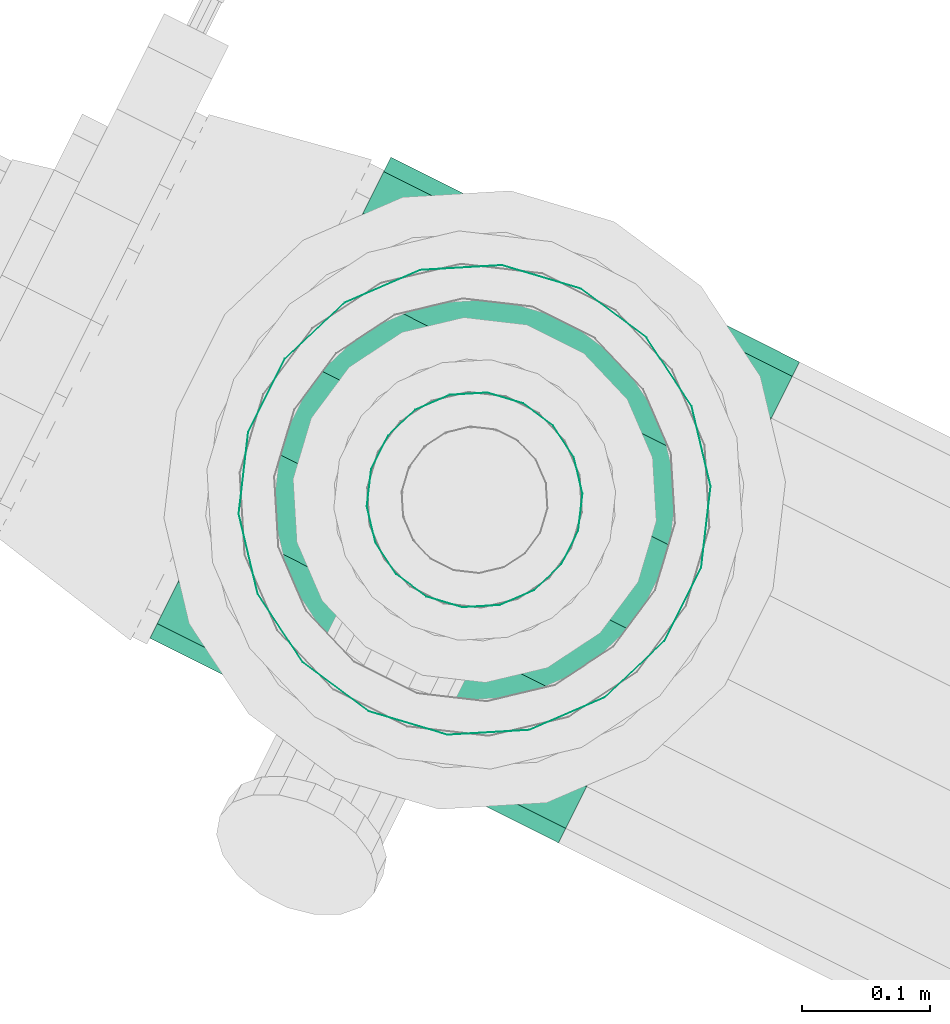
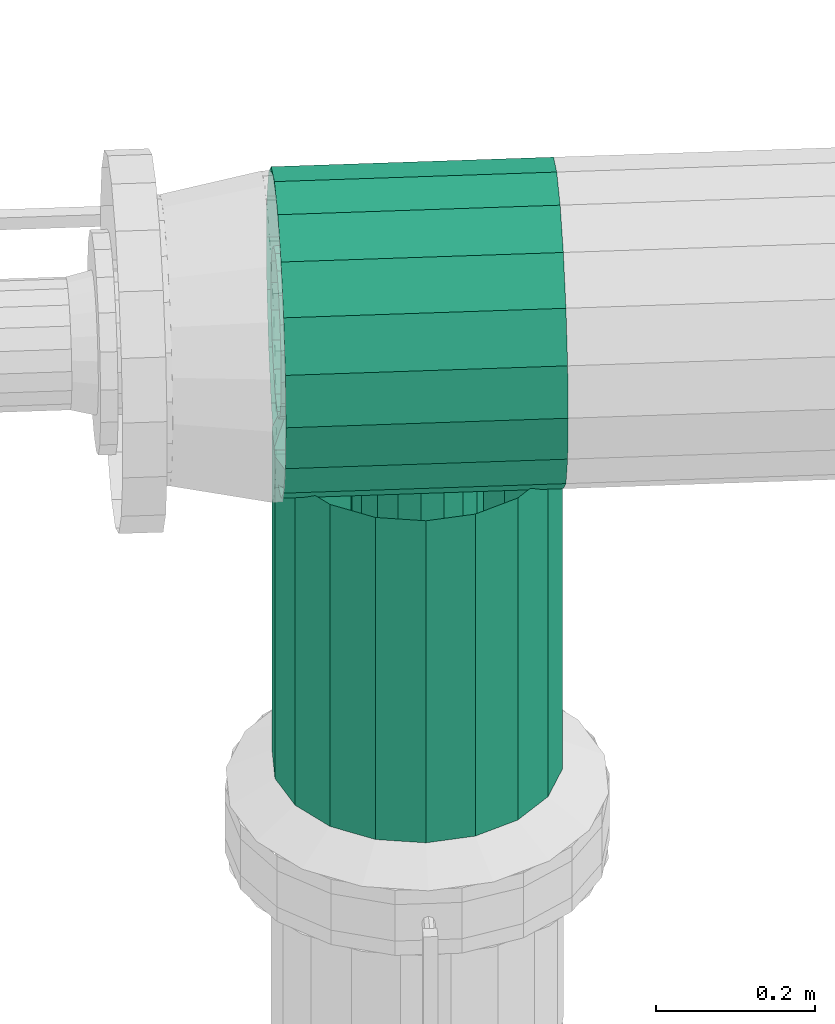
# One storey, part 74 of 152: 1 flow fitting, 1 flow segment.
"""IFC2X3 building model written with IfcOpenShell, lengths in metres."""

from ifc_helpers import new_model, si_unit, derived_unit, direction, frame, origin, place, context, subcontext, project, spatial, face_set, surface_model, source, transform, mapped, material, type_object, type_shapes, element, save


model = new_model("IFC2X3")

# Units and contexts
model_context = context("Model", 3, precision=5.2338327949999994e-05, world=origin(), true_north=direction((0.0, 1.0)))
body_context = subcontext(model_context, "Body", "Model", "MODEL_VIEW")
ifc_project = project(units=[si_unit("LENGTHUNIT", "METRE"), si_unit("AREAUNIT", "SQUARE_METRE"), si_unit("VOLUMEUNIT", "CUBIC_METRE"), si_unit("MASSUNIT", "GRAM", prefix="KILO"), si_unit("PLANEANGLEUNIT", "RADIAN"), derived_unit("THERMALTRANSMITTANCEUNIT", [(si_unit("MASSUNIT", "GRAM", prefix="KILO"), 1), (si_unit("THERMODYNAMICTEMPERATUREUNIT", "KELVIN"), -1), (si_unit("TIMEUNIT", "SECOND"), -3)])], contexts=[model_context])

# Site, building, storey
site_placement = place(None, frame((0.0, 0.0, 0.0), z_axis=(0.0, 0.0, 1.0), x_axis=(0.8939966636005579, -0.4480736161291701, 0.0)))
site = spatial("IfcSite", under=ifc_project, at=site_placement, Name="Default", CompositionType="ELEMENT")
building_placement = place(site_placement, origin())
building = spatial("IfcBuilding", under=site, at=building_placement, CompositionType="ELEMENT")
storey_placement = place(building_placement, frame((0.0, 0.0, 2.7499999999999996)))
storey = spatial("IfcBuildingStorey", under=building, at=storey_placement, Name="1. Obergeschoss", CompositionType="ELEMENT", Elevation=2.7499999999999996)

# Flow fitting
ifc_material = material(Name="IfcSurfaceStyle #1741")
distribution_element_type_1 = type_object("IfcDistributionElementType", Name="Abzweigstück 320975:Abzweigstück 320975", material=ifc_material)
shared_shape_1 = source(origin(), body_context, "Body", "SurfaceModel", [
    surface_model("IfcFaceBasedSurfaceModel", [(22.906853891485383, 8.569265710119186, 5.122997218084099), (22.906853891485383, 8.562659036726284, 5.160465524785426), (23.26285389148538, 8.562659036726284, 5.160465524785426), (23.26285389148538, 8.569265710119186, 5.122997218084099), (22.906853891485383, 8.543635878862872, 5.1934146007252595), (23.26285389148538, 8.543635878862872, 5.1934146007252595), (22.906853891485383, 8.514490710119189, 5.217870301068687), (23.26285389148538, 8.514490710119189, 5.217870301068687), (22.906853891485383, 8.478738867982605, 5.230882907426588), (23.26285389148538, 8.478738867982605, 5.230882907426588), (22.906853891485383, 8.440692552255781, 5.230882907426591), (23.26285389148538, 8.440692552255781, 5.230882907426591), (22.906853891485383, 8.40494071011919, 5.217870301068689), (23.26285389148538, 8.40494071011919, 5.217870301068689), (22.906853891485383, 8.375795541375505, 5.193414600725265), (23.26285389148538, 8.375795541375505, 5.193414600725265), (22.906853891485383, 8.356772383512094, 5.160465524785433), (23.26285389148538, 8.356772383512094, 5.160465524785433), (22.906853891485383, 8.350165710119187, 5.122997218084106), (23.26285389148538, 8.350165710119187, 5.122997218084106), (22.906853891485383, 8.35677238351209, 5.085528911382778), (23.26285389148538, 8.35677238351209, 5.085528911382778), (22.906853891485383, 8.3757955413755, 5.052579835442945), (23.26285389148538, 8.3757955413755, 5.052579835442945), (22.906853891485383, 8.404940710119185, 5.028124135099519), (23.26285389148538, 8.404940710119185, 5.028124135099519), (22.906853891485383, 8.440692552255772, 5.015111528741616), (23.26285389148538, 8.440692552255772, 5.015111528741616), (22.906853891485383, 8.478738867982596, 5.015111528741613), (23.26285389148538, 8.478738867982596, 5.015111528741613), (22.906853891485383, 8.514490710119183, 5.028124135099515), (23.26285389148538, 8.514490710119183, 5.028124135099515), (22.906853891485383, 8.543635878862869, 5.0525798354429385), (23.26285389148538, 8.543635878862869, 5.0525798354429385), (22.906853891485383, 8.56265903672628, 5.085528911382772), (23.26285389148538, 8.56265903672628, 5.085528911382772), (23.169003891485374, 8.459715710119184, 5.013447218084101), (23.16392902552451, 8.430934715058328, 5.017295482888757), (23.163929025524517, 8.430934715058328, 4.954997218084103), (23.169003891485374, 8.45971571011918, 4.954997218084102), (23.149316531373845, 8.405625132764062, 5.027732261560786), (23.149316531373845, 8.405625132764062, 4.954997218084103), (23.12692889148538, 8.386839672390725, 5.041203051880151), (23.12692889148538, 8.386839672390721, 4.954997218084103), (23.099466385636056, 8.376844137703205, 5.0513487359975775), (23.099466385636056, 8.376844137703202, 4.954997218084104), (23.07024139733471, 8.376844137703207, 5.0513487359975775), (23.07024139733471, 8.376844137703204, 4.954997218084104), (23.042778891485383, 8.386839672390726, 5.041203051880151), (23.042778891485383, 8.386839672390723, 4.954997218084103), (23.02039125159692, 8.40562513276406, 5.027732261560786), (23.02039125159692, 8.40562513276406, 4.954997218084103), (23.005778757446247, 8.430934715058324, 5.017295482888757), (23.005778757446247, 8.430934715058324, 4.954997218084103), (23.000703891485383, 8.459715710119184, 5.013447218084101), (23.000703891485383, 8.459715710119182, 4.954997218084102), (23.005778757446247, 8.488496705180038, 5.017295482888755), (23.005778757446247, 8.488496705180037, 4.954997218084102), (23.020391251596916, 8.513806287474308, 5.027732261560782), (23.02039125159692, 8.513806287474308, 4.9549972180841), (23.042778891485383, 8.532591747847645, 5.041203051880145), (23.042778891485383, 8.532591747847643, 4.954997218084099), (23.07024139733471, 8.54258728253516, 5.051348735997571), (23.07024139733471, 8.542587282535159, 4.954997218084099), (23.099466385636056, 8.542587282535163, 5.051348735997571), (23.099466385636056, 8.542587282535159, 4.954997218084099), (23.12692889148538, 8.532591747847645, 5.041203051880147), (23.12692889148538, 8.532591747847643, 4.954997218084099), (23.149316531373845, 8.513806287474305, 5.027732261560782), (23.149316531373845, 8.513806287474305, 4.9549972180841), (23.163929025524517, 8.488496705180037, 5.017295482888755), (23.163929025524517, 8.488496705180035, 4.954997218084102), (22.906853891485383, 8.669265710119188, 5.1229972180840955), (22.906853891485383, 8.656628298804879, 5.194667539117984), (23.26285389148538, 8.656628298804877, 5.194667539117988), (23.26285389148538, 8.669265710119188, 5.1229972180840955), (22.906853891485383, 8.620240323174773, 5.25769336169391), (23.26285389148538, 8.620240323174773, 5.25769336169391), (22.906853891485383, 8.564490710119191, 5.3044728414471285), (23.26285389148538, 8.564490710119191, 5.3044728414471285), (22.906853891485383, 8.4961036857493, 5.329363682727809), (23.26285389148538, 8.4961036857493, 5.329363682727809), (22.906853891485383, 8.423327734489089, 5.329363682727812), (23.26285389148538, 8.423327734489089, 5.329363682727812), (22.906853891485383, 8.354940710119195, 5.304472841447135), (23.26285389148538, 8.354940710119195, 5.304472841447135), (22.906853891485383, 8.29919109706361, 5.2576933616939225), (23.26285389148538, 8.29919109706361, 5.2576933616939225), (22.906853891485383, 8.262803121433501, 5.194667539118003), (23.26285389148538, 8.262803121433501, 5.194667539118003), (22.906853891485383, 8.25016571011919, 5.122997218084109), (23.26285389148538, 8.25016571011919, 5.122997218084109), (22.906853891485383, 8.262803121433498, 5.051326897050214), (23.26285389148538, 8.262803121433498, 5.051326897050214), (22.906853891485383, 8.299191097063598, 4.988301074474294), (23.26285389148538, 8.299191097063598, 4.988301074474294), (22.906853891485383, 8.354940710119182, 4.941521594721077), (23.26285389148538, 8.354940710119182, 4.941521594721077), (22.906853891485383, 8.423327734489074, 4.916630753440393), (23.26285389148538, 8.423327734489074, 4.916630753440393), (22.906853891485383, 8.496103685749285, 4.916630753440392), (23.26285389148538, 8.496103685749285, 4.916630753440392), (22.906853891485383, 8.56449071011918, 4.941521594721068), (23.26285389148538, 8.56449071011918, 4.941521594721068), (22.906853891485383, 8.620240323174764, 4.988301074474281), (23.26285389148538, 8.620240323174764, 4.988301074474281), (22.906853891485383, 8.65662829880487, 5.051326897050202), (23.26285389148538, 8.65662829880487, 5.051326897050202)], [face_set([[[0, 1, 2, 3]], [[1, 4, 5, 2]], [[4, 6, 7, 5]], [[6, 8, 9, 7]], [[8, 10, 11, 9]], [[10, 12, 13, 11]], [[12, 14, 15, 13]], [[14, 16, 17, 15]], [[16, 18, 19, 17]], [[18, 20, 21, 19]], [[20, 22, 23, 21]], [[22, 24, 25, 23]], [[24, 26, 27, 25]], [[26, 28, 29, 27]], [[28, 30, 31, 29]], [[30, 32, 33, 31]], [[32, 34, 35, 33]], [[34, 0, 3, 35]], [[36, 37, 38, 39]], [[37, 40, 41, 38]], [[40, 42, 43, 41]], [[42, 44, 45, 43]], [[44, 46, 47, 45]], [[46, 48, 49, 47]], [[48, 50, 51, 49]], [[50, 52, 53, 51]], [[52, 54, 55, 53]], [[54, 56, 57, 55]], [[56, 58, 59, 57]], [[58, 60, 61, 59]], [[60, 62, 63, 61]], [[62, 64, 65, 63]], [[64, 66, 67, 65]], [[66, 68, 69, 67]], [[68, 70, 71, 69]], [[70, 36, 39, 71]], [[72, 73, 74, 75]], [[73, 76, 77, 74]], [[76, 78, 79, 77]], [[78, 80, 81, 79]], [[80, 82, 83, 81]], [[82, 84, 85, 83]], [[84, 86, 87, 85]], [[86, 88, 89, 87]], [[88, 90, 91, 89]], [[90, 92, 93, 91]], [[92, 94, 95, 93]], [[94, 96, 97, 95]], [[96, 98, 99, 97]], [[98, 100, 101, 99]], [[100, 102, 103, 101]], [[102, 104, 105, 103]], [[104, 106, 107, 105]], [[106, 72, 75, 107]]])]),
])
type_shapes(distribution_element_type_1, [shared_shape_1])
flow_fitting_placement = place(storey_placement, frame((0.0, 0.0, -2.7499999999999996)))
element("IfcFlowFitting", 1, at=flow_fitting_placement, inside=storey, type_object=distribution_element_type_1, material=ifc_material, Name="Abzweigstück", ObjectType="Abzweigstück", context=body_context, shape_type="MappedRepresentation", body=[
    mapped(shared_shape_1, transform((0.0, 0.0, 0.0), scale=1.0)),
])

# Flow segment
distribution_element_type_2 = type_object("IfcDistributionElementType", Name="Stahlrohr nach DIN 2448 347315:Stahlrohr nach DIN 2448 347315", material=ifc_material)
shared_shape_2 = source(origin(), body_context, "Body", "SurfaceModel", [
    surface_model("IfcFaceBasedSurfaceModel", [(23.084853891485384, 8.37556571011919, 4.954997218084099), (23.056072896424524, 8.380640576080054, 4.954997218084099), (23.05607289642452, 8.380640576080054, 4.460183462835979), (23.08485389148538, 8.37556571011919, 4.460183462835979), (23.030763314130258, 8.395253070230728, 4.954997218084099), (23.030763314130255, 8.395253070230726, 4.460183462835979), (23.011977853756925, 8.41764071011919, 4.954997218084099), (23.011977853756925, 8.41764071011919, 4.460183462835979), (23.00198231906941, 8.44510321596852, 4.954997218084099), (23.001982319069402, 8.445103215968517, 4.460183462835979), (23.001982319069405, 8.474328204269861, 4.954997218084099), (23.001982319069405, 8.47432820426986, 4.460183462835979), (23.011977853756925, 8.501790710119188, 4.954997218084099), (23.011977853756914, 8.501790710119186, 4.460183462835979), (23.030763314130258, 8.524178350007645, 4.954997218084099), (23.030763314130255, 8.524178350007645, 4.460183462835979), (23.056072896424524, 8.538790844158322, 4.954997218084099), (23.05607289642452, 8.538790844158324, 4.460183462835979), (23.084853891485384, 8.543865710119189, 4.954997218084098), (23.08485389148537, 8.543865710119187, 4.460183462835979), (23.11363488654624, 8.53879084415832, 4.954997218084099), (23.113634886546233, 8.53879084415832, 4.460183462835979), (23.138944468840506, 8.524178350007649, 4.954997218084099), (23.1389444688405, 8.52417835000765, 4.460183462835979), (23.15772992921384, 8.501790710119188, 4.954997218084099), (23.157729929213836, 8.501790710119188, 4.460183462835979), (23.16772546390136, 8.474328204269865, 4.954997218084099), (23.16772546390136, 8.474328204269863, 4.460183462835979), (23.167725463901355, 8.445103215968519, 4.954997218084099), (23.167725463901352, 8.44510321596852, 4.460183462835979), (23.15772992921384, 8.417640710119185, 4.954997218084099), (23.15772992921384, 8.417640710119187, 4.460183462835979), (23.1389444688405, 8.395253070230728, 4.954997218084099), (23.1389444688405, 8.39525307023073, 4.460183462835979), (23.113634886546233, 8.380640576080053, 4.954997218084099), (23.11363488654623, 8.380640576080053, 4.460183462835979), (23.084853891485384, 8.275565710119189, 4.954997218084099), (23.021870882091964, 8.286671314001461, 4.954997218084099), (23.021870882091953, 8.286671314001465, 4.460183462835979), (23.084853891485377, 8.275565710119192, 4.460183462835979), (22.966484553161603, 8.318648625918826, 4.954997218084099), (22.9664845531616, 8.318648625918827, 4.460183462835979), (22.925375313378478, 8.367640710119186, 4.954997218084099), (22.925375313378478, 8.367640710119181, 4.460183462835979), (22.903501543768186, 8.427738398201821, 4.954997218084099), (22.903501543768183, 8.427738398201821, 4.460183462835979), (22.903501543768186, 8.491693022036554, 4.954997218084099), (22.903501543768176, 8.491693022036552, 4.460183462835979), (22.925375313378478, 8.551790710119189, 4.954997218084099), (22.925375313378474, 8.551790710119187, 4.460183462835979), (22.9664845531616, 8.600782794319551, 4.954997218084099), (22.9664845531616, 8.600782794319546, 4.460183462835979), (23.021870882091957, 8.63276010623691, 4.954997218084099), (23.021870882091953, 8.632760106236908, 4.460183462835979), (23.084853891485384, 8.64386571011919, 4.954997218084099), (23.084853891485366, 8.643865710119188, 4.460183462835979), (23.1478369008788, 8.632760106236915, 4.954997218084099), (23.147836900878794, 8.632760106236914, 4.460183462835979), (23.203223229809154, 8.600782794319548, 4.954997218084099), (23.20322322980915, 8.600782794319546, 4.460183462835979), (23.244332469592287, 8.551790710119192, 4.954997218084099), (23.244332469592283, 8.551790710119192, 4.460183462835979), (23.266206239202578, 8.491693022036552, 4.954997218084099), (23.266206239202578, 8.491693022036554, 4.460183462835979), (23.266206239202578, 8.427738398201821, 4.954997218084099), (23.266206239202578, 8.427738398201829, 4.460183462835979), (23.244332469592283, 8.36764071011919, 4.954997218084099), (23.244332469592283, 8.36764071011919, 4.460183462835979), (23.203223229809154, 8.318648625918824, 4.954997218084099), (23.203223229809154, 8.31864862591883, 4.460183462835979), (23.147836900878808, 8.286671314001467, 4.954997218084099), (23.147836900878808, 8.286671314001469, 4.460183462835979)], [face_set([[[0, 1, 2, 3]], [[1, 4, 5, 2]], [[4, 6, 7, 5]], [[6, 8, 9, 7]], [[8, 10, 11, 9]], [[10, 12, 13, 11]], [[12, 14, 15, 13]], [[14, 16, 17, 15]], [[16, 18, 19, 17]], [[18, 20, 21, 19]], [[20, 22, 23, 21]], [[22, 24, 25, 23]], [[24, 26, 27, 25]], [[26, 28, 29, 27]], [[28, 30, 31, 29]], [[30, 32, 33, 31]], [[32, 34, 35, 33]], [[34, 0, 3, 35]], [[36, 37, 38, 39]], [[37, 40, 41, 38]], [[40, 42, 43, 41]], [[42, 44, 45, 43]], [[44, 46, 47, 45]], [[46, 48, 49, 47]], [[48, 50, 51, 49]], [[50, 52, 53, 51]], [[52, 54, 55, 53]], [[54, 56, 57, 55]], [[56, 58, 59, 57]], [[58, 60, 61, 59]], [[60, 62, 63, 61]], [[62, 64, 65, 63]], [[64, 66, 67, 65]], [[66, 68, 69, 67]], [[68, 70, 71, 69]], [[70, 36, 39, 71]]])]),
])
type_shapes(distribution_element_type_2, [shared_shape_2])
flow_segment_placement = place(storey_placement, frame((0.0, 0.0, -2.7499999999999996)))
element("IfcFlowSegment", 2, at=flow_segment_placement, inside=storey, type_object=distribution_element_type_2, material=ifc_material, Name="Stahlrohr nach DIN 2448", ObjectType="Stahlrohr nach DIN 2448", context=body_context, shape_type="MappedRepresentation", body=[
    mapped(shared_shape_2, transform((0.0, 0.0, 0.0), scale=1.0)),
])

save(model, "model.ifc")
